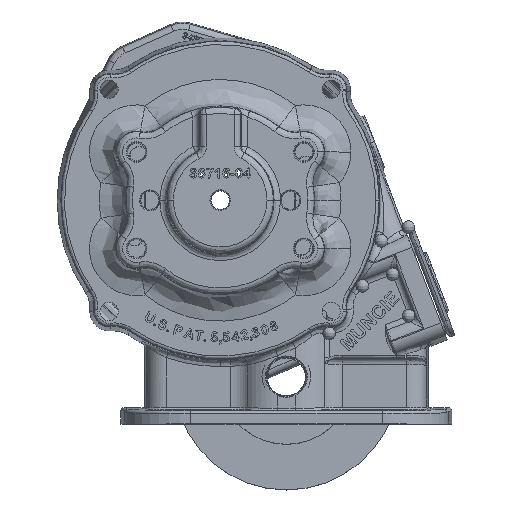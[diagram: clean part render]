
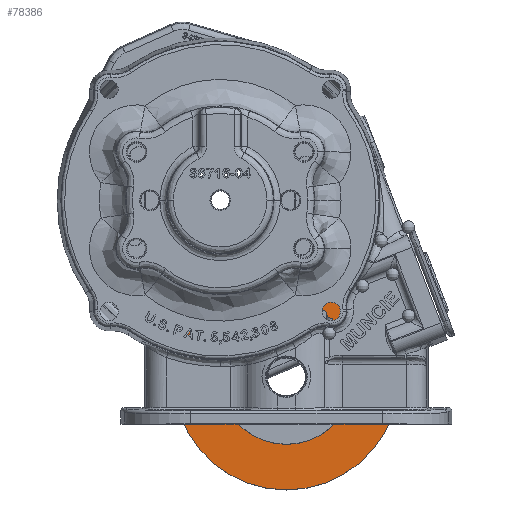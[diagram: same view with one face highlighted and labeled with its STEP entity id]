
A CAD part, top view. The second image highlights one B-rep face of the part: STEP entity #78386.
In plain terms, the highlighted planar face has unit normal (0, 0, 1).
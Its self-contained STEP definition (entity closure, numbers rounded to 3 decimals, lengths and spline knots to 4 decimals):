
#9954 = ORIENTED_EDGE ( 'NONE', *, *, #27587, .F. ) ;
#9957 = ORIENTED_EDGE ( 'NONE', *, *, #27644, .F. ) ;
#9960 = ORIENTED_EDGE ( 'NONE', *, *, #27553, .T. ) ;
#9962 = ORIENTED_EDGE ( 'NONE', *, *, #27651, .T. ) ;
#12473 = AXIS2_PLACEMENT_3D ( 'NONE', #41033, #41034, #41035 ) ;
#12475 = AXIS2_PLACEMENT_3D ( 'NONE', #41030, #41031, #41032 ) ;
#12476 = CIRCLE ( 'NONE', #12473, 2.135 ) ;
#12478 = CIRCLE ( 'NONE', #12475, 1.2 ) ;
#12495 = AXIS2_PLACEMENT_3D ( 'NONE', #41002, #41003, #41004 ) ;
#12498 = CIRCLE ( 'NONE', #12495, 1.2 ) ;
#12506 = AXIS2_PLACEMENT_3D ( 'NONE', #40985, #40986, #40987 ) ;
#12512 = CIRCLE ( 'NONE', #12506, 2.135 ) ;
#27553 = EDGE_CURVE ( 'NONE', #46439, #46502, #12512, .T. ) ;
#27587 = EDGE_CURVE ( 'NONE', #46505, #46369, #12498, .T. ) ;
#27644 = EDGE_CURVE ( 'NONE', #46369, #46505, #12478, .T. ) ;
#27651 = EDGE_CURVE ( 'NONE', #46502, #46439, #12476, .T. ) ;
#40985 = CARTESIAN_POINT ( 'NONE',  ( 0.2973, -1.4645, -0.2777 ) ) ;
#40986 = DIRECTION ( 'NONE',  ( 0., 0., 1. ) ) ;
#40987 = DIRECTION ( 'NONE',  ( 0., -1., 0. ) ) ;
#41002 = CARTESIAN_POINT ( 'NONE',  ( 0.2973, -1.4645, -0.2777 ) ) ;
#41003 = DIRECTION ( 'NONE',  ( 0., 0., 1. ) ) ;
#41004 = DIRECTION ( 'NONE',  ( 0., -1., 0. ) ) ;
#41030 = CARTESIAN_POINT ( 'NONE',  ( 0.2973, -1.4645, -0.2777 ) ) ;
#41031 = DIRECTION ( 'NONE',  ( 0., 0., 1. ) ) ;
#41032 = DIRECTION ( 'NONE',  ( 0., -1., 0. ) ) ;
#41033 = CARTESIAN_POINT ( 'NONE',  ( 0.2973, -1.4645, -0.2777 ) ) ;
#41034 = DIRECTION ( 'NONE',  ( 0., 0., 1. ) ) ;
#41035 = DIRECTION ( 'NONE',  ( 0., -1., 0. ) ) ;
#41333 = CARTESIAN_POINT ( 'NONE',  ( 0.2973, -0.2645, -0.2777 ) ) ;
#41439 = CARTESIAN_POINT ( 'NONE',  ( 0.2973, -3.5995, -0.2777 ) ) ;
#41532 = CARTESIAN_POINT ( 'NONE',  ( 0.2973, 0.6705, -0.2777 ) ) ;
#41537 = CARTESIAN_POINT ( 'NONE',  ( 0.2973, -2.6645, -0.2777 ) ) ;
#46369 = VERTEX_POINT ( 'NONE', #41333 ) ;
#46439 = VERTEX_POINT ( 'NONE', #41439 ) ;
#46502 = VERTEX_POINT ( 'NONE', #41532 ) ;
#46505 = VERTEX_POINT ( 'NONE', #41537 ) ;
#78386 = ADVANCED_FACE ( 'NONE', ( #118639, #118642 ), #118644, .T. ) ;
#86488 = AXIS2_PLACEMENT_3D ( 'NONE', #118614, #118648, #118649 ) ;
#94200 = EDGE_LOOP ( 'NONE', ( #9962, #9960 ) ) ;
#94356 = EDGE_LOOP ( 'NONE', ( #9957, #9954 ) ) ;
#118614 = CARTESIAN_POINT ( 'NONE',  ( 0.2973, -1.4645, -0.2777 ) ) ;
#118639 = FACE_OUTER_BOUND ( 'NONE', #94200, .T. ) ;
#118642 = FACE_BOUND ( 'NONE', #94356, .T. ) ;
#118644 = PLANE ( 'NONE',  #86488 ) ;
#118648 = DIRECTION ( 'NONE',  ( 0., 0., 1. ) ) ;
#118649 = DIRECTION ( 'NONE',  ( 0., -1., 0. ) ) ;
